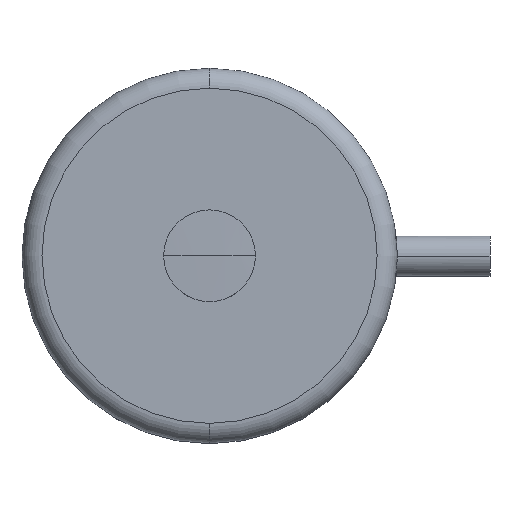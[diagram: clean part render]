
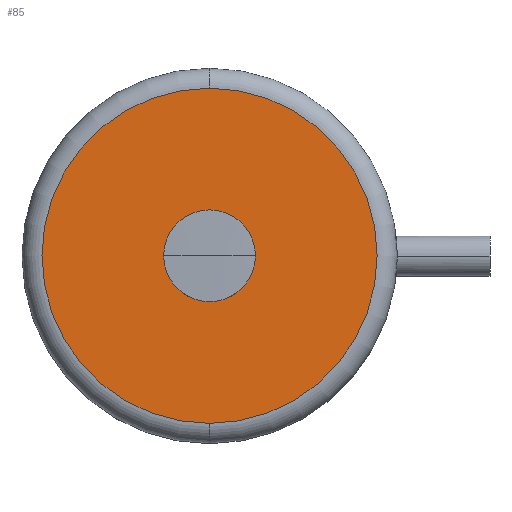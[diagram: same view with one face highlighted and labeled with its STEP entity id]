
A CAD part, top view. The second image highlights one B-rep face of the part: STEP entity #85.
In plain terms, the highlighted planar face has unit normal (0, 0, 1).
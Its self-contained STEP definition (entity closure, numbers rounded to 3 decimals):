
#85=ADVANCED_FACE('',(#113,#114),#115,.T.);
#113=FACE_OUTER_BOUND('',#147,.T.);
#114=FACE_BOUND('',#148,.T.);
#115=PLANE('',#149);
#147=EDGE_LOOP('',(#233,#234,#235));
#148=EDGE_LOOP('',(#236,#237));
#149=AXIS2_PLACEMENT_3D('',#238,#239,#240);
#233=ORIENTED_EDGE('',*,*,#288,.T.);
#234=ORIENTED_EDGE('',*,*,#309,.T.);
#235=ORIENTED_EDGE('',*,*,#289,.T.);
#236=ORIENTED_EDGE('',*,*,#310,.F.);
#237=ORIENTED_EDGE('',*,*,#282,.F.);
#238=CARTESIAN_POINT('',(-2.1,0.,5.8));
#239=DIRECTION('',(0.,0.,1.0));
#240=DIRECTION('',(-1.0,0.,0.));
#282=EDGE_CURVE('',#319,#321,#322,.T.);
#288=EDGE_CURVE('',#333,#331,#334,.T.);
#289=EDGE_CURVE('',#325,#333,#335,.T.);
#309=EDGE_CURVE('',#331,#325,#367,.T.);
#310=EDGE_CURVE('',#321,#319,#368,.T.);
#319=VERTEX_POINT('',#377);
#321=VERTEX_POINT('',#380);
#322=CIRCLE('',#381,1.15);
#325=VERTEX_POINT('',#385);
#331=VERTEX_POINT('',#391);
#333=VERTEX_POINT('',#393);
#334=CIRCLE('',#394,4.2);
#335=CIRCLE('',#395,4.2);
#367=CIRCLE('',#469,4.2);
#368=CIRCLE('',#470,1.15);
#377=CARTESIAN_POINT('',(1.15,0.,5.8));
#380=CARTESIAN_POINT('',(-1.15,0.,5.8));
#381=AXIS2_PLACEMENT_3D('',#483,#484,#485);
#385=CARTESIAN_POINT('',(0.,4.2,5.8));
#391=CARTESIAN_POINT('',(0.,-4.2,5.8));
#393=CARTESIAN_POINT('',(-4.2,0.,5.8));
#394=AXIS2_PLACEMENT_3D('',#499,#500,#501);
#395=AXIS2_PLACEMENT_3D('',#502,#503,#504);
#469=AXIS2_PLACEMENT_3D('',#539,#540,#541);
#470=AXIS2_PLACEMENT_3D('',#542,#543,#544);
#483=CARTESIAN_POINT('',(0.0,0.,5.8));
#484=DIRECTION('',(0.,0.,1.0));
#485=DIRECTION('',(1.0,0.,0.));
#499=CARTESIAN_POINT('',(0.,0.,5.8));
#500=DIRECTION('',(0.,0.,1.0));
#501=DIRECTION('',(-1.0,0.,0.));
#502=CARTESIAN_POINT('',(0.,0.,5.8));
#503=DIRECTION('',(0.,0.,1.0));
#504=DIRECTION('',(-1.0,0.,0.));
#539=CARTESIAN_POINT('',(0.,0.,5.8));
#540=DIRECTION('',(0.,0.,1.0));
#541=DIRECTION('',(-1.0,0.,0.));
#542=CARTESIAN_POINT('',(0.0,0.,5.8));
#543=DIRECTION('',(0.,0.,1.0));
#544=DIRECTION('',(1.0,0.,0.));
